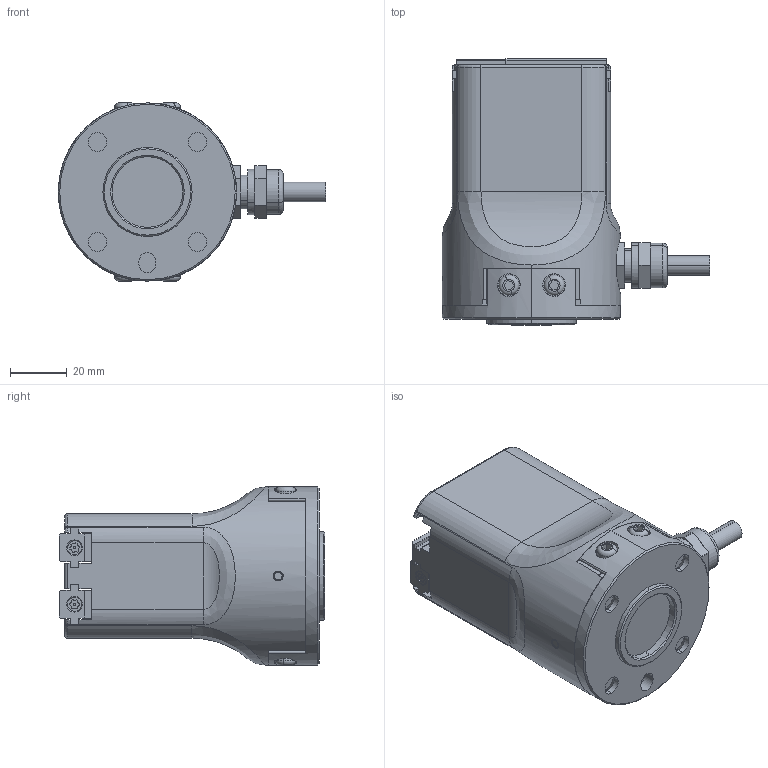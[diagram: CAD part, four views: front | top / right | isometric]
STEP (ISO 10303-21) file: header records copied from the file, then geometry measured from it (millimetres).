
FILE_DESCRIPTION (( 'STEP AP214' ), '1' );
FILE_NAME ('EFG-C35（外发）.STEP', '2023-12-07T08:32:55', ( '' ), ( '' ), 'SwSTEP 2.0', 'SolidWorks 2022', '' );
FILE_SCHEMA (( 'AUTOMOTIVE_DESIGN' ));
Length unit declared in the file: millimetre
Products named in the file (4): EFG-C35ㄗ俋楷ㄘ; EFG-C35ㄗ忒硌ㄘ; EFG-C35ㄗ綴裔ㄘ; EFG-C35ㄗ掛极ㄘ
Assembly tree (4 placements, depth 2):
  EFG-C35ㄗ俋楷ㄘ
    EFG-C35ㄗ掛极ㄘ
    EFG-C35ㄗ忒硌ㄘ  x2
    EFG-C35ㄗ綴裔ㄘ
Bounding box: 94.5 x 94 x 63 mm (x, y, z)
Volume: 232868.1 mm3; surface area: 43247.6 mm2
Topology: 12 solids, 24 shells, 631 faces, 1508 edges, 950 vertices
Faces by surface type: plane 301, cylinder 214, cone 88, torus 24, bspline 4
Entity records: 20622 total; most frequent: CARTESIAN_POINT 4284, DIRECTION 2461, ORIENTED_EDGE 2278, EDGE_CURVE 1139, AXIS2_PLACEMENT_3D 898, VERTEX_POINT 733, LINE 665, VECTOR 665
